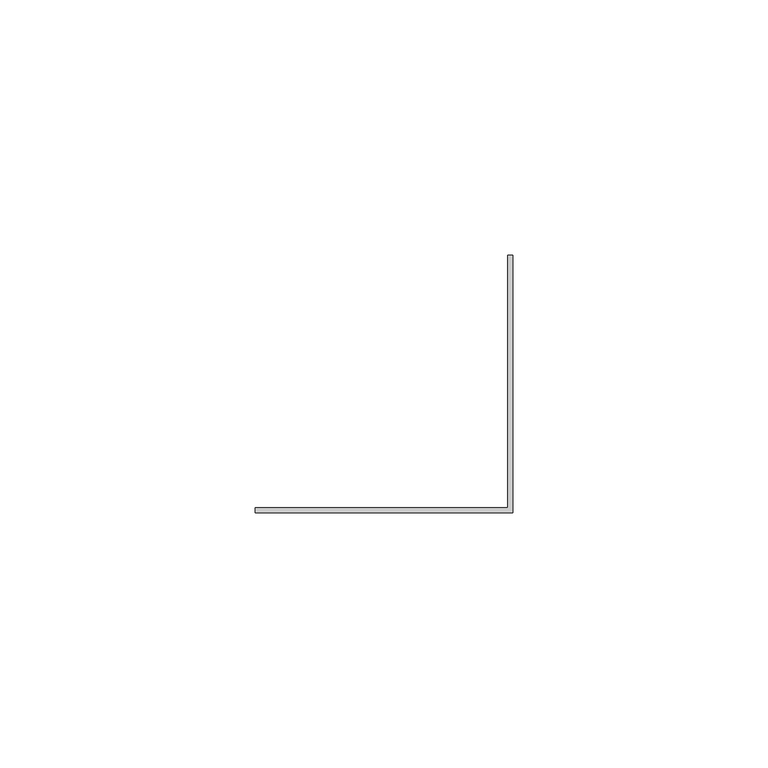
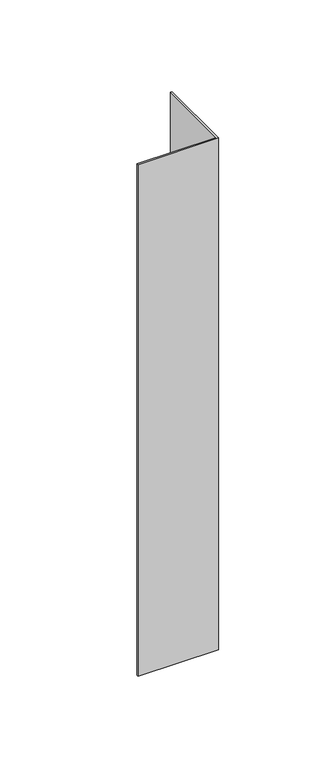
"""IFC4 building model written with IfcOpenShell, lengths in millimetres: member geometry, Meneau d'angle en L : ATELIERS 3S_Angle rentrant."""

from ifc_helpers import new_model, si_unit, frame, origin, place, context, project, spatial, polyline, outline, extrude, source, transform, mapped, element, save


def member_181dc847(model_context):
    return source(origin(), model_context, "Body", "SweptSolid", [
        extrude(outline(polyline([(0.0, 50.5), (0.0, 0.0), (-50.5, 0.0), (-50.5, 1.0), (-1.0, 1.0), (-1.0, 50.5), (0.0, 50.5)])), frame((0.0, 0.0, -340.0), z_axis=(0.0, 0.0, 1.0), x_axis=(1.0, 0.0, 0.0)), (0.0, 0.0, 1.0), 340.0),
    ])


if __name__ == "__main__":
    model = new_model("IFC4")
    model_context = context("Model", 3, world=origin())
    ifc_project = project(units=[si_unit("LENGTHUNIT", "METRE", prefix="MILLI")], contexts=[model_context])
    site = spatial("IfcSite", under=ifc_project)
    building = spatial("IfcBuilding", under=site)
    placement = place(None, origin())
    member_shape = member_181dc847(model_context)
    element("IfcMember", 1, ObjectType="Meneau d'angle en L : ATELIERS 3S_Angle rentrant", at=placement, inside=building, context=model_context, shape_type="MappedRepresentation", body=[
        mapped(member_shape, transform((0.0, 0.0, 0.0), x_axis=(1.0, 0.0, 0.0), y_axis=(0.0, 1.0, 0.0), z_axis=(0.0, 0.0, 1.0))),
    ])
    save(model, "model.ifc")
